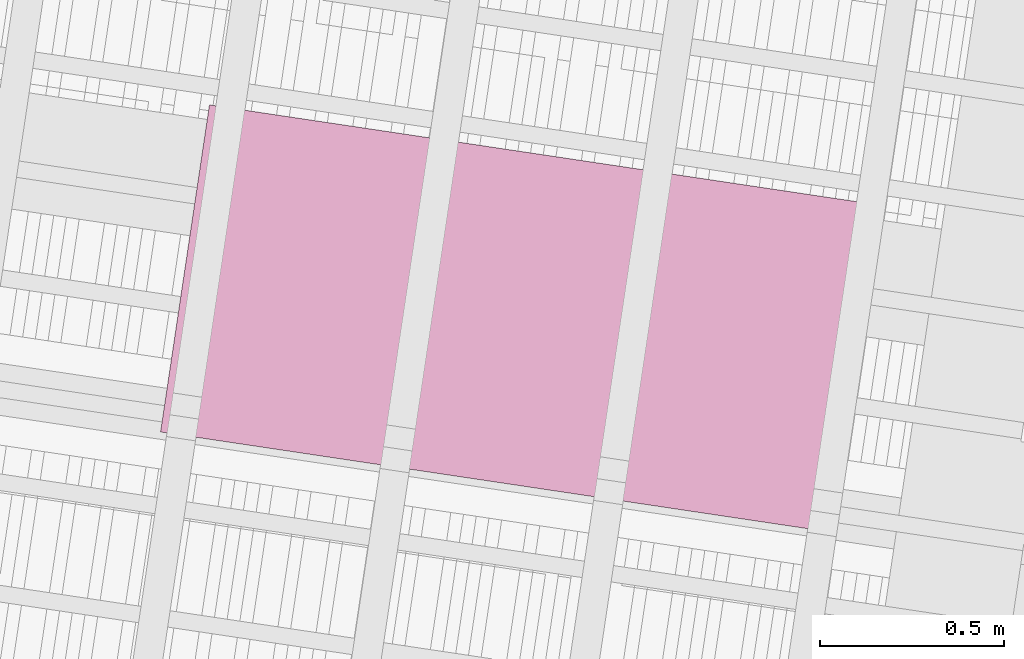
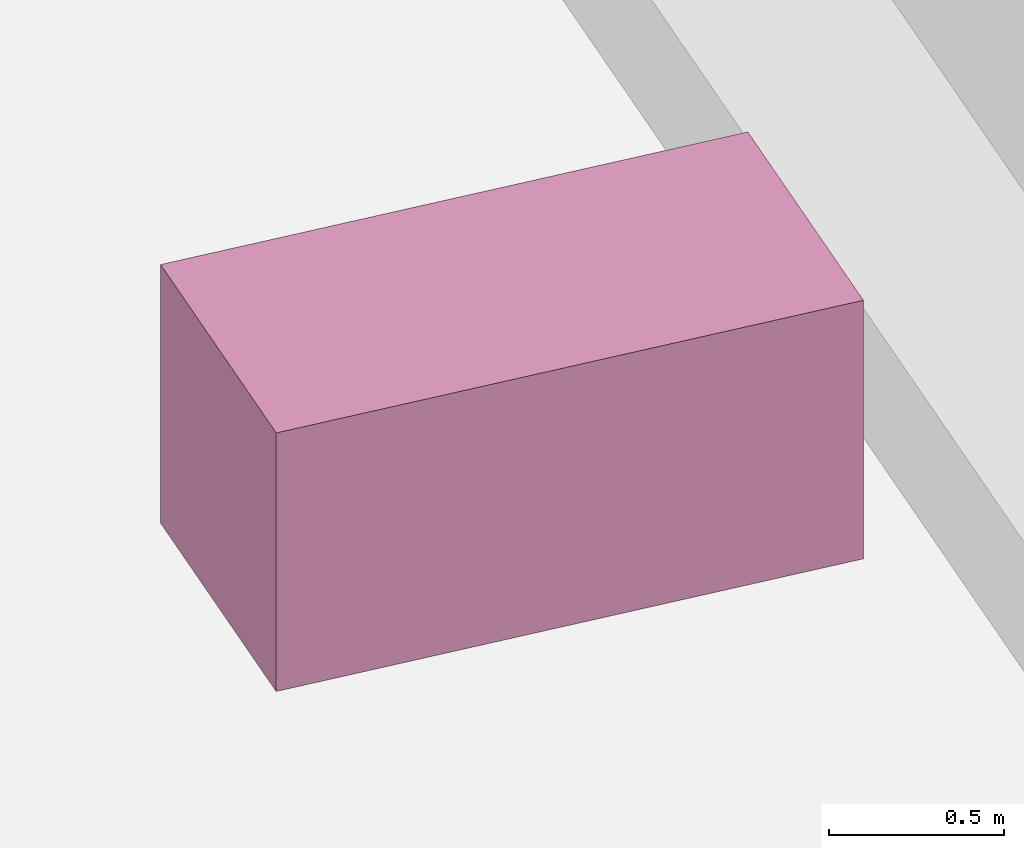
# One storey, part 130 of 131: 1 furnishing.
"""IFC4 building model written with IfcOpenShell, lengths in metres."""

from ifc_helpers import new_model, si_unit, direction, frame, origin_with_axes, place, context, subcontext, project, spatial, polyline, outline, extrude, material, element, save


model = new_model("IFC4")

# Units and contexts
model_context = context("Model", 3, precision=1e-05, world=origin_with_axes(), true_north=direction((0.0, 1.0)))
body_context = subcontext(model_context, "Body", "Model", "MODEL_VIEW")
ifc_project = project(units=[si_unit("AREAUNIT", "SQUARE_METRE"), si_unit("VOLUMEUNIT", "CUBIC_METRE"), si_unit("LENGTHUNIT", "METRE")], contexts=[model_context])

# Site, building, storey
site_placement = place(None, origin_with_axes())
site = spatial("IfcSite", under=ifc_project, at=site_placement, Name="Lares · Rua das Mercês · artigo 4771")
building_placement = place(site_placement, frame((15.0, 9.7, 14.65), z_axis=(0.0, 0.0, 1.0), x_axis=(0.989015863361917, -0.147809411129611, 0.0)))
building = spatial("IfcBuilding", under=site, at=building_placement, Name="Casa Sobreposta")
storey_placement = place(building_placement, origin_with_axes())
storey = spatial("IfcBuildingStorey", under=building, at=storey_placement, Name="00 · Habitação e estacionamento", Elevation=14.65)

# Furnishing
ifc_material = material(Name="OSB", Category="wood")
furnishing_placement = place(storey_placement, origin_with_axes())
element("IfcFurnishingElement", 1, at=furnishing_placement, inside=storey, material=ifc_material, Name="Ilha da cozinha · esquema", context=body_context, shape_type="SweptSolid", body=[
    extrude(outline(polyline([(7.1, 2.5), (7.1, 3.4), (5.3, 3.4), (5.3, 2.5), (7.1, 2.5)])), origin_with_axes(), (0.0, 0.0, 1.0), 0.9),
])

save(model, "model.ifc")
